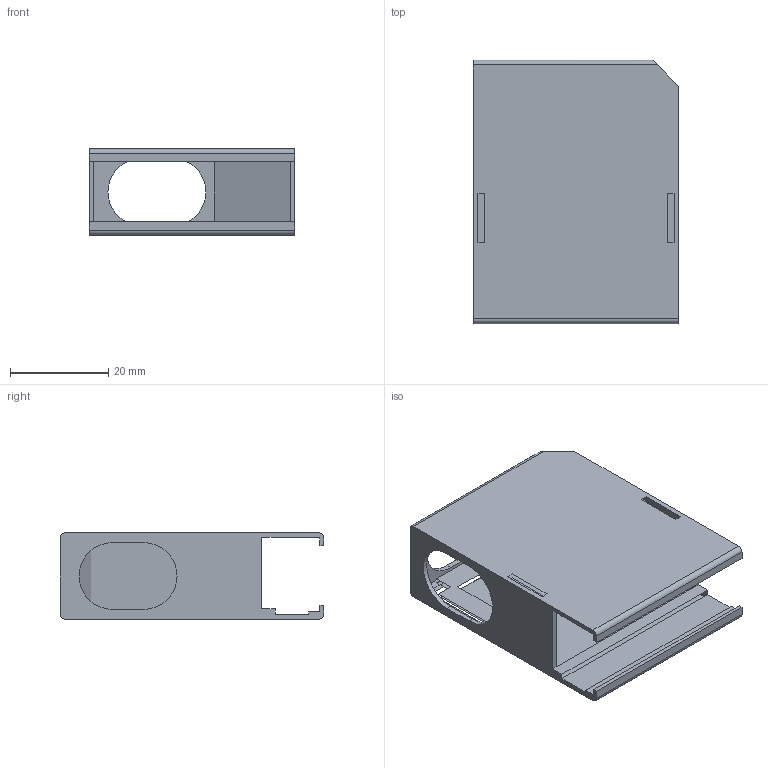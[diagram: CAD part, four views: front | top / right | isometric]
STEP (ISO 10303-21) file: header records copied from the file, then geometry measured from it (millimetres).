
FILE_DESCRIPTION((''),'2;1');
FILE_NAME('CD-NI-9965-BACKSHELL','2010-03-01T',('scarrasc'),(''),'PRO/ENGINEER BY PARAMETRIC TECHNOLOGY CORPORATION, 2006080','PRO/ENGINEER BY PARAMETRIC TECHNOLOGY CORPORATION, 2006080','');
FILE_SCHEMA(('CONFIG_CONTROL_DESIGN'));
Length unit declared in the file: inch
Products named in the file (1): CD-NI-9965-BACKSHELL
Bounding box: 42 x 53.8 x 17.6 mm (x, y, z)
Surface area: 11965.8 mm2 (no closed solid volume)
Topology: 0 solids, 4 shells, 38 faces, 182 edges, 138 vertices
Faces by surface type: plane 29, cylinder 9
Entity records: 1854 total; most frequent: CARTESIAN_POINT 373, ORIENTED_EDGE 278, DIRECTION 270, EDGE_CURVE 182, VECTOR 160, LINE 160, VERTEX_POINT 138, AXIS2_PLACEMENT_3D 55
